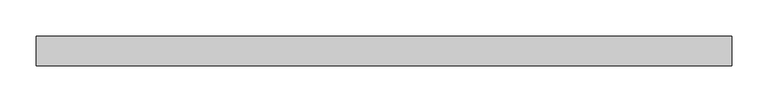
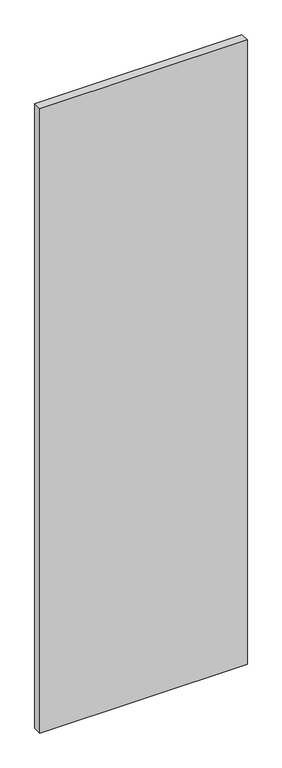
"""IFC4 building model written with IfcOpenShell, lengths in millimetres: plate geometry, Vitré."""

from ifc_helpers import new_model, si_unit, origin, origin_with_axes, place, context, project, spatial, polyline, outline, extrude, source, transform, mapped, element, save


def plate_c8351b52(model_context):
    return source(origin(), model_context, "Body", "SweptSolid", [
        extrude(outline(polyline([(-476.3147633, -20.0), (-476.3147633, 20.0), (476.3147633, 20.0), (476.3147633, -20.0), (-476.3147633, -20.0)])), origin_with_axes(), (0.0, 0.0, 1.0), 3030.0),
    ])


if __name__ == "__main__":
    model = new_model("IFC4")
    model_context = context("Model", 3, world=origin())
    ifc_project = project(units=[si_unit("LENGTHUNIT", "METRE", prefix="MILLI")], contexts=[model_context])
    site = spatial("IfcSite", under=ifc_project)
    building = spatial("IfcBuilding", under=site)
    placement = place(None, origin())
    plate_shape = plate_c8351b52(model_context)
    element("IfcPlate", 1, ObjectType="Vitré", at=placement, inside=building, context=model_context, shape_type="MappedRepresentation", body=[
        mapped(plate_shape, transform((0.0, 0.0, 0.0), x_axis=(1.0, 0.0, 0.0), y_axis=(0.0, 1.0, 0.0), z_axis=(0.0, 0.0, 1.0))),
    ])
    save(model, "model.ifc")
